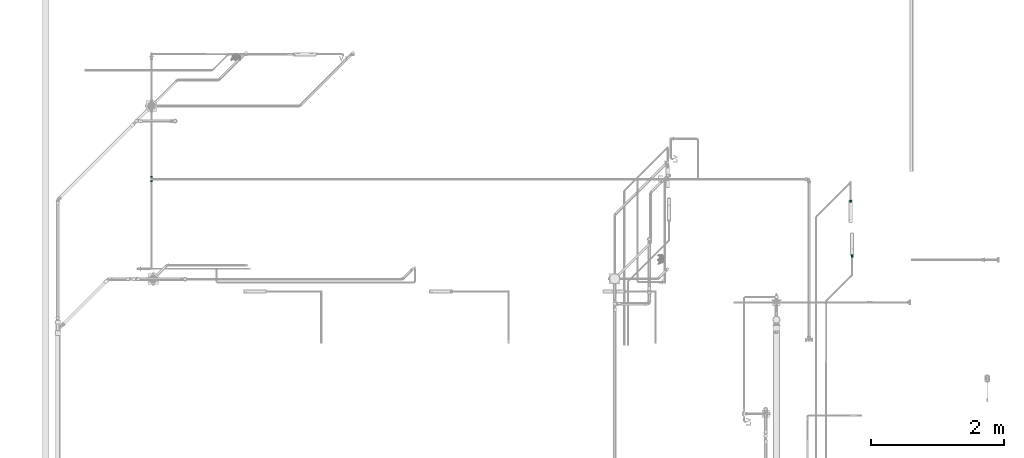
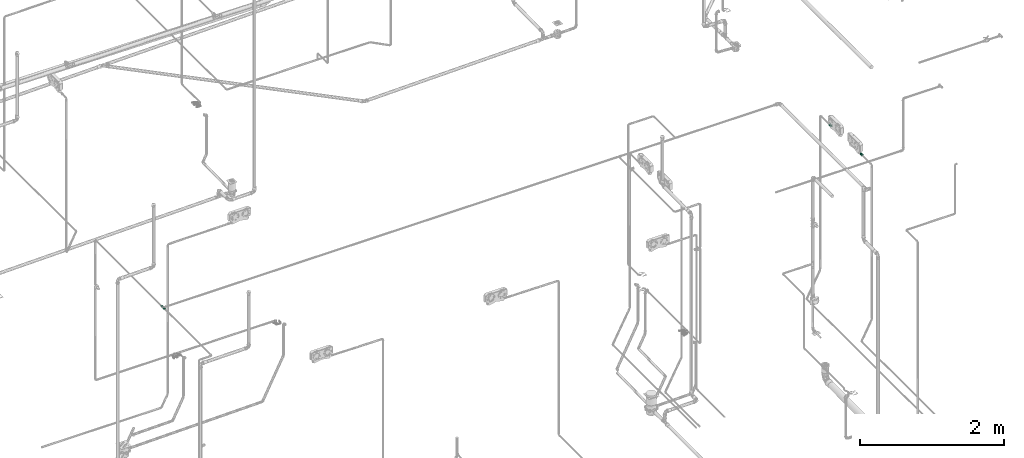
# One storey, part 342 of 589: 4 flow fittings.
"""IFC2X3 building model written with IfcOpenShell, lengths in millimetres."""

from ifc_helpers import new_model, entity, si_unit, converted_unit, derived_unit, direction, frame, frame_2d, origin, place, context, subcontext, project, spatial, hollow_circle, extrude, faceted_brep, source, transform, mapped, material, type_object, type_shapes, element, save


model = new_model("IFC2X3")

# Units and contexts
model_context = context("Model", 3, precision=0.01, world=origin(), true_north=direction((6.123031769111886e-17, 1.0)))
body_context = subcontext(model_context, "Body", "Model", "MODEL_VIEW")
ifc_project = project(units=[si_unit("LENGTHUNIT", "METRE", prefix="MILLI"), si_unit("AREAUNIT", "SQUARE_METRE"), si_unit("VOLUMEUNIT", "CUBIC_METRE"), converted_unit("PLANEANGLEUNIT", "DEGREE", entity("IfcRatioMeasure", 0.017453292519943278), si_unit("PLANEANGLEUNIT", "RADIAN"), dimensions=[0, 0, 0, 0, 0, 0, 0]), si_unit("MASSUNIT", "GRAM", prefix="KILO"), derived_unit("MASSDENSITYUNIT", [(si_unit("MASSUNIT", "GRAM", prefix="KILO"), 1), (si_unit("LENGTHUNIT", "METRE"), -3)]), derived_unit("IONCONCENTRATIONUNIT", [(si_unit("MASSUNIT", "GRAM", prefix="KILO"), 1), (si_unit("LENGTHUNIT", "METRE"), -3)]), derived_unit("MOMENTOFINERTIAUNIT", [(si_unit("LENGTHUNIT", "METRE"), 4)]), si_unit("TIMEUNIT", "SECOND"), si_unit("FREQUENCYUNIT", "HERTZ"), si_unit("THERMODYNAMICTEMPERATUREUNIT", "DEGREE_CELSIUS"), derived_unit("THERMALTRANSMITTANCEUNIT", [(si_unit("MASSUNIT", "GRAM", prefix="KILO"), 1), (si_unit("THERMODYNAMICTEMPERATUREUNIT", "KELVIN"), -1), (si_unit("TIMEUNIT", "SECOND"), -3)]), derived_unit("THERMALCONDUCTANCEUNIT", [(si_unit("MASSUNIT", "GRAM", prefix="KILO"), 1), (si_unit("THERMODYNAMICTEMPERATUREUNIT", "KELVIN"), -1), (si_unit("TIMEUNIT", "SECOND"), -3), (si_unit("LENGTHUNIT", "METRE"), 1)]), derived_unit("VOLUMETRICFLOWRATEUNIT", [(si_unit("LENGTHUNIT", "METRE"), 3), (si_unit("TIMEUNIT", "SECOND"), -1)]), derived_unit("MASSFLOWRATEUNIT", [(si_unit("MASSUNIT", "GRAM", prefix="KILO"), 1), (si_unit("TIMEUNIT", "SECOND"), -1)]), derived_unit("ROTATIONALFREQUENCYUNIT", [(si_unit("TIMEUNIT", "SECOND"), -1)]), si_unit("ELECTRICCURRENTUNIT", "AMPERE"), si_unit("ELECTRICVOLTAGEUNIT", "VOLT"), si_unit("POWERUNIT", "WATT"), si_unit("FORCEUNIT", "NEWTON", prefix="KILO"), si_unit("ILLUMINANCEUNIT", "LUX"), si_unit("LUMINOUSFLUXUNIT", "LUMEN"), si_unit("LUMINOUSINTENSITYUNIT", "CANDELA"), derived_unit("USERDEFINED", [(si_unit("MASSUNIT", "GRAM", prefix="KILO"), -1), (si_unit("LENGTHUNIT", "METRE"), -2), (si_unit("TIMEUNIT", "SECOND"), 3), (si_unit("LUMINOUSFLUXUNIT", "LUMEN"), 1)]), derived_unit("USERDEFINED", [(si_unit("MASSUNIT", "GRAM", prefix="KILO"), 1), (si_unit("TIMEUNIT", "SECOND"), -3), (si_unit("LENGTHUNIT", "METRE"), 3), (si_unit("ELECTRICCURRENTUNIT", "AMPERE"), -2)]), derived_unit("SOUNDPOWERUNIT", [(si_unit("MASSUNIT", "GRAM", prefix="KILO"), 1), (si_unit("TIMEUNIT", "SECOND"), -3), (si_unit("LENGTHUNIT", "METRE"), 2)]), derived_unit("SOUNDPRESSUREUNIT", [(si_unit("MASSUNIT", "GRAM", prefix="KILO"), 1), (si_unit("LENGTHUNIT", "METRE"), -1), (si_unit("TIMEUNIT", "SECOND"), -2)]), derived_unit("LINEARVELOCITYUNIT", [(si_unit("LENGTHUNIT", "METRE"), 1), (si_unit("TIMEUNIT", "SECOND"), -1)]), si_unit("PRESSUREUNIT", "PASCAL"), derived_unit("USERDEFINED", [(si_unit("MASSUNIT", "GRAM", prefix="KILO"), 1), (si_unit("LENGTHUNIT", "METRE"), -2), (si_unit("TIMEUNIT", "SECOND"), -2)]), derived_unit("LINEARFORCEUNIT", [(si_unit("MASSUNIT", "GRAM", prefix="KILO"), 1), (si_unit("TIMEUNIT", "SECOND"), -2)]), derived_unit("PLANARFORCEUNIT", [(si_unit("MASSUNIT", "GRAM", prefix="KILO"), 1), (si_unit("LENGTHUNIT", "METRE"), -1), (si_unit("TIMEUNIT", "SECOND"), -2)]), derived_unit("SPECIFICHEATCAPACITYUNIT", [(si_unit("THERMODYNAMICTEMPERATUREUNIT", "KELVIN"), -1), (si_unit("LENGTHUNIT", "METRE"), 2), (si_unit("TIMEUNIT", "SECOND"), -2)]), derived_unit("HEATINGVALUEUNIT", [(si_unit("LENGTHUNIT", "METRE"), 2), (si_unit("TIMEUNIT", "SECOND"), -2)]), derived_unit("VAPORPERMEABILITYUNIT", [(si_unit("LENGTHUNIT", "METRE"), -1), (si_unit("TIMEUNIT", "SECOND"), 1)]), derived_unit("DYNAMICVISCOSITYUNIT", [(si_unit("MASSUNIT", "GRAM", prefix="KILO"), 1), (si_unit("TIMEUNIT", "SECOND"), -1), (si_unit("LENGTHUNIT", "METRE"), -1)]), derived_unit("THERMALEXPANSIONCOEFFICIENTUNIT", [(si_unit("THERMODYNAMICTEMPERATUREUNIT", "KELVIN"), -1)]), derived_unit("MODULUSOFELASTICITYUNIT", [(si_unit("MASSUNIT", "GRAM", prefix="KILO"), 1), (si_unit("LENGTHUNIT", "METRE"), -1), (si_unit("TIMEUNIT", "SECOND"), -2)]), derived_unit("ISOTHERMALMOISTURECAPACITYUNIT", [(si_unit("LENGTHUNIT", "METRE"), 3), (si_unit("MASSUNIT", "GRAM", prefix="KILO"), -1)]), derived_unit("MOISTUREDIFFUSIVITYUNIT", [(si_unit("TIMEUNIT", "SECOND"), -1), (si_unit("LENGTHUNIT", "METRE"), 2)])], contexts=[model_context])

# Site, building, storey
site_placement = place(None, origin())
site = spatial("IfcSite", under=ifc_project, at=site_placement, Name="Default", CompositionType="ELEMENT")
building_placement = place(site_placement, origin())
building = spatial("IfcBuilding", under=site, at=building_placement, CompositionType="ELEMENT")
storey_placement = place(building_placement, frame((0.0, 0.0, 100.0)))
storey = spatial("IfcBuildingStorey", under=building, at=storey_placement, Name="TÉRREO", CompositionType="ELEMENT", Elevation=100.0)

# Flow fittings
ifc_material_1 = material(Name="PVC Azul")
pipe_fitting_type_1 = type_object("IfcPipeFittingType", Name="Luva Soldavel com Bucha de Latao - Fortlev - AleBim:Standard", PredefinedType="NOTDEFINED", material=ifc_material_1)
shared_shape_1 = source(origin(), body_context, "Body", "Brep", [
    faceted_brep([(0.0, -9.400000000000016, -16.28127759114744), (0.0, -13.2936074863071, -13.293607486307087), (0.0, -6.249999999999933, -10.825317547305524), (0.0, -3.235238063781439, -12.074072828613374), (0.0, -4.865798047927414, -18.15940553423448), (0.0, -8.838834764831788, -8.838834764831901), (0.0, -16.281277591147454, -9.399999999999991), (0.0, -10.82531754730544, -6.250000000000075), (0.0, -12.074072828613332, -3.2352380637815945), (0.0, -18.159405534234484, -4.865798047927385), (0.0, -12.5, 0.0), (0.0, -18.8, 0.0), (0.0, -12.074072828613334, 3.2352380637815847), (0.0, -18.159405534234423, 4.8657980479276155), (0.0, -10.825317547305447, 6.250000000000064), (0.0, -16.281277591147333, 9.400000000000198), (0.0, -8.838834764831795, 8.838834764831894), (0.0, -13.293607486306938, 13.29360748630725), (0.0, -6.249999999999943, 10.825317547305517), (0.0, -9.399999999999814, 16.281277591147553), (0.0, -3.23523806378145, 12.07407282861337), (0.0, -4.865798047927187, 18.159405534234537), (0.0, 0.0, 12.5), (0.0, 0.0, 18.8), (0.0, 3.2352380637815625, 12.074072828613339), (0.0, 4.865798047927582, 18.159405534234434), (0.0, 6.2500000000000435, 10.825317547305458), (0.0, 9.400000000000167, 16.28127759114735), (0.0, 8.838834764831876, 8.838834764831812), (0.0, 13.29360748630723, 13.293607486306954), (0.0, 10.825317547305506, 6.249999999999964), (0.0, 16.281277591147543, 9.399999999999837), (0.0, 18.159405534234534, 4.865798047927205), (0.0, 12.074072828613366, 3.2352380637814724), (0.0, 18.8, 0.0), (0.0, 12.5, 0.0), (0.0, 18.15940553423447, -4.865798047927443), (0.0, 12.074072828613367, -3.2352380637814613), (0.0, 16.281277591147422, -9.400000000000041), (0.0, 10.825317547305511, -6.249999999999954), (0.0, 13.293607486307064, -13.293607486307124), (0.0, 8.838834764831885, -8.838834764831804), (0.0, 9.399999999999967, -16.281277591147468), (0.0, 6.250000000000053, -10.825317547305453), (0.0, 4.86579804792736, -18.159405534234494), (0.0, 3.2352380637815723, -12.074072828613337), (0.0, 0.0, -18.8), (0.0, 0.0, -12.5), (20.0, 17.66604204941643, 6.4304710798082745), (20.0, 18.233021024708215, 3.2152355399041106), (20.0, 11.899800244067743, 14.183636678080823), (20.0, 14.400961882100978, 12.08520983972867), (20.0, 16.033501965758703, 9.257840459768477), (20.0, 6.330580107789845, 17.39840655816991), (20.0, 3.2625216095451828, 18.514749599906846), (20.0, 18.8, 0.0), (20.0, 9.398638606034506, 16.282063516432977), (20.0, -17.667654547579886, 6.4260394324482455), (20.0, -9.402722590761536, 16.279705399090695), (20.0, -6.334944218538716, 17.39681801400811), (20.0, -3.267165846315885, 18.513930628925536), (20.0, -14.403992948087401, 12.081597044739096), (20.0, -11.903357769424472, 14.180651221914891), (20.0, -18.8, 0.0), (20.0, -16.03582374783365, 9.253818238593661), (20.0, -0.0023221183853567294, 18.514340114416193), (20.0, -17.66765454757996, -6.426039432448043), (20.0, -11.903357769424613, -14.180651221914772), (20.0, -14.403992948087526, -12.081597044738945), (20.0, -16.035823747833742, -9.253818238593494), (20.0, -6.334944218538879, -17.39681801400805), (20.0, -3.2671658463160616, -18.513930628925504), (20.0, 18.233021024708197, -3.2152355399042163), (20.0, -9.402722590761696, -16.2797053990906), (20.0, 6.330580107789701, -17.398406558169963), (20.0, 3.2625216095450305, -18.514749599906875), (20.0, 9.398638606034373, -16.282063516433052), (20.0, 11.899800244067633, -14.183636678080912), (20.0, 17.66604204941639, -6.43047107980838), (20.0, 16.033501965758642, -9.257840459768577), (20.0, 14.400961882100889, -12.085209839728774), (20.0, -0.0023221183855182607, -18.51434011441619), (23.69999999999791, 14.19050976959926, 5.16134018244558), (23.699999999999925, 15.09999999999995, 0.0), (23.699999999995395, 5.088173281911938, 13.97297617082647), (23.699999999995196, 2.6241598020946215, 14.870231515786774), (23.699999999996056, 9.560675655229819, 11.38977837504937), (23.699999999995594, 7.552186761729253, 13.075720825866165), (23.699999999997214, 12.879837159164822, 7.432588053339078), (23.699999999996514, 11.569164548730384, 9.703835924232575), (23.699999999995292, 0.0018651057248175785, 14.870560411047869), (23.69999999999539, -2.620429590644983, 14.870889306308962), (23.699999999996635, -9.557818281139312, 11.392176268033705), (23.699999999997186, -11.566730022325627, 9.706737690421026), (23.699999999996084, -7.548906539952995, 13.077614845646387), (23.699999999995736, -5.084668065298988, 13.974252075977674), (23.699999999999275, -14.644607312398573, 2.582449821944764), (23.699999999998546, -14.189214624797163, 5.164899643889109), (23.700000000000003, -15.099999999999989, 0.0), (23.699999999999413, -14.732236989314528, 2.085517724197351), (23.699999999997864, -12.877972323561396, 7.4358186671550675), (23.699999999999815, -14.644607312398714, -2.582449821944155), (23.699999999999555, -14.18921462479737, -5.164899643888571), (23.699999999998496, -5.084668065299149, -13.97425207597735), (23.699999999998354, -2.620429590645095, -14.87088930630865), (23.69999999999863, -7.548906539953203, -13.077614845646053), (23.69999999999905, -11.566730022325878, -9.706737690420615), (23.69999999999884, -9.557818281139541, -11.392176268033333), (23.6999999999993, 14.190509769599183, -5.1613401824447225), (23.699999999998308, 0.0018651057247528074, -14.870560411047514), (23.699999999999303, -12.877972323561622, -7.435818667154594), (23.699999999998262, 2.6241598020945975, -14.870231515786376), (23.699999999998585, 9.56067565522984, -11.389778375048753), (23.699999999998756, 11.569164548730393, -9.703835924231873), (23.699999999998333, 5.088173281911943, -13.972976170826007), (23.69999999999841, 7.552186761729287, -13.075720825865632), (23.69999999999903, 12.879837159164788, -7.432588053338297), (34.20000000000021, -14.189214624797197, -5.164899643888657), (34.20000000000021, -14.73223698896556, -2.085517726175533), (34.20000000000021, -15.099999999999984, 0.0), (34.20000000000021, -9.55781828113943, -11.392176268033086), (34.20000000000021, -11.566730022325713, -9.706737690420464), (34.20000000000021, -7.548906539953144, -13.077614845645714), (34.20000000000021, -12.877972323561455, -7.43581866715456), (34.20000000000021, -2.620429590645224, -14.870889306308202), (34.20000000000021, -5.084668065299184, -13.974252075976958), (34.20000000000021, 2.6241598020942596, -14.870231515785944), (34.20000000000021, 0.0018651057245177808, -14.870560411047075), (34.20000000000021, 5.0881732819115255, -13.97297617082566), (34.20000000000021, 7.552186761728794, -13.075720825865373), (34.20000000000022, 11.56916454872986, -9.70383592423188), (34.200000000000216, 9.560675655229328, -11.389778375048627), (34.20000000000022, 12.879837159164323, -7.432588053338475), (34.20000000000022, 14.19050976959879, -5.161340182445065), (34.20000000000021, 15.100000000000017, 0.0), (34.199999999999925, 14.190509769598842, 5.161340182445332), (34.19999999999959, 7.552186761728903, 13.0757208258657), (34.199999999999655, 9.56067565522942, 11.389778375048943), (34.19999999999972, 11.569164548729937, 9.703835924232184), (34.199999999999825, 12.879837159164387, 7.432588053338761), (34.19999999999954, 2.624159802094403, 14.87023151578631), (34.19999999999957, 5.08817328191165, 13.972976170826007), (34.19999999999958, -2.6204295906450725, 14.870889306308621), (34.19999999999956, 0.0018651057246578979, 14.870560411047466), (34.199999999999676, -7.548906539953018, 13.077614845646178), (34.199999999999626, -5.084668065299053, 13.974252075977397), (34.20000000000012, -14.644607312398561, 2.582449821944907), (34.20000000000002, -14.18921462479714, 5.164899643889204), (34.199999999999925, -12.877972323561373, 7.435818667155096), (34.19999999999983, -11.566730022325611, 9.706737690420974), (34.199999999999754, -9.557818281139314, 11.392176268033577), (36.20000000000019, -17.099999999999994, 0.0), (36.20000000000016, -16.698266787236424, 2.2781566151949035), (36.199999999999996, -16.584290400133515, 2.9244961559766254), (36.200000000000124, -16.068580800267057, 5.848992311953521), (36.20000000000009, -14.583664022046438, 8.420695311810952), (36.20000000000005, -13.098747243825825, 10.992398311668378), (36.200000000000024, -10.823754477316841, 12.90107378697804), (36.2, -8.548761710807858, 14.809749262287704), (36.19999999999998, -5.758134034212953, 15.825146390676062), (36.19999999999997, -2.9675063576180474, 16.840543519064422), (36.19999999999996, 0.0021121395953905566, 16.84017106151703), (36.19999999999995, 2.9717306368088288, 16.839798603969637), (36.199999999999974, 8.55247639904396, 14.807604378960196), (36.19999999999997, 5.762103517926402, 15.823701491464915), (36.20000000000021, 17.100000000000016, 0.0), (36.2000000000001, 16.070047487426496, 5.844961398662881), (36.200000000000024, 13.101504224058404, 10.989112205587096), (36.20000000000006, 14.585775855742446, 8.417036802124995), (36.2, 10.826990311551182, 12.898358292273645), (36.20000000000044, 16.07004748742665, -5.844961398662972), (36.200000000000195, 0.0021121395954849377, -16.84017106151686), (36.20000000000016, -2.9675063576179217, -16.84054351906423), (36.20000000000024, 2.9717306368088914, -16.839798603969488), (36.200000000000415, 14.58577585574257, -8.417036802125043), (36.20000000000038, 13.10150422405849, -10.989112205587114), (36.20000000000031, 8.552476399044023, -14.807604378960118), (36.20000000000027, 5.7621035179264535, -15.823701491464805), (36.20000000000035, 10.826990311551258, -12.898358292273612), (36.20000000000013, -5.758134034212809, -15.825146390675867), (36.2000000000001, -8.548761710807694, -14.809749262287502), (36.200000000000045, -16.068580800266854, -5.848992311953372), (36.200000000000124, -16.58429040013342, -2.924496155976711), (36.20000000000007, -13.098747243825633, -10.992398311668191), (36.20000000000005, -14.583664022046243, -8.420695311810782), (36.20000000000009, -10.823754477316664, -12.901073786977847), (40.200000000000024, 8.550000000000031, -14.809034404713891), (40.200000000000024, 12.091525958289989, -12.091525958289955), (40.200000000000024, 6.2500000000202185, -10.825317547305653), (40.200000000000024, 3.2352380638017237, -12.074072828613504), (40.200000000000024, 4.425805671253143, -16.51733162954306), (40.200000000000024, 8.838834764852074, -8.838834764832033), (40.200000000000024, 14.809034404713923, -8.549999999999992), (40.200000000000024, 10.825317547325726, -6.250000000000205), (40.200000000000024, 12.074072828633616, -3.235238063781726), (40.200000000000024, 16.517331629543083, -4.4258056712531), (40.200000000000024, 12.500000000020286, 0.0), (40.200000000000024, 17.100000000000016, 0.0), (40.200000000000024, 12.074072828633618, 3.2352380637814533), (40.200000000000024, 16.51733162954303, 4.42580567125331), (40.200000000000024, 10.825317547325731, 6.2499999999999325), (40.200000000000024, 14.809034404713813, 8.550000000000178), (40.200000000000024, 8.83883476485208, 8.838834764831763), (40.200000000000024, 12.091525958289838, 12.091525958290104), (40.200000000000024, 6.250000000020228, 10.825317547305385), (40.200000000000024, 8.549999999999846, 14.809034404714), (40.200000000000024, 3.235238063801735, 12.074072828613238), (40.200000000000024, 4.425805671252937, 16.51733162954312), (40.200000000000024, 0.0, 12.49999999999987), (40.200000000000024, 0.0, 17.1), (40.200000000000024, -3.235238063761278, 12.07407282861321), (40.200000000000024, -4.425805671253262, 16.51733162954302), (40.200000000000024, -6.249999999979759, 10.825317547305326), (40.200000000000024, -8.550000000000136, 14.809034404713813), (40.200000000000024, -8.838834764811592, 8.838834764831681), (40.200000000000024, -12.091525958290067, 12.091525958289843), (40.200000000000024, -10.825317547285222, 6.249999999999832), (40.200000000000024, -14.809034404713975, 8.549999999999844), (40.200000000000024, -16.517331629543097, 4.425805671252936), (40.200000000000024, -12.07407282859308, 3.2352380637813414), (40.200000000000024, -17.099999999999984, 0.0), (40.200000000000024, -12.499999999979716, 0.0), (40.200000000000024, -16.517331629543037, -4.425805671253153), (40.200000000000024, -12.074072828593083, -3.2352380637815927), (40.200000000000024, -14.809034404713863, -8.550000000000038), (40.200000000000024, -10.825317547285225, -6.250000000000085), (40.200000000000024, -12.09152595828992, -12.09152595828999), (40.200000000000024, -8.838834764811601, -8.838834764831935), (40.200000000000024, -8.549999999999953, -14.80903440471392), (40.200000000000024, -6.249999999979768, -10.825317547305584), (40.200000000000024, -4.425805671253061, -16.517331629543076), (40.200000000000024, -3.2352380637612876, -12.074072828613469), (40.200000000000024, 0.0, -17.1), (40.200000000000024, 0.0, -12.500000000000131), (24.0, 3.23523806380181, -12.074072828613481), (24.0, 6.250000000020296, -10.825317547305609), (24.0, 8.838834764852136, -8.83883476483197), (24.0, 10.825317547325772, -6.250000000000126), (24.0, 12.07407282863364, -3.2352380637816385), (24.0, 12.500000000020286, 0.0), (24.0, 12.074072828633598, 3.235238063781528), (24.0, 10.825317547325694, 6.249999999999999), (24.0, 8.838834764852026, 8.838834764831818), (24.0, 6.250000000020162, 10.825317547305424), (24.0, 3.2352380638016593, 12.074072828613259), (24.0, 0.0, 12.49999999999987), (24.0, -3.235238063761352, 12.07407282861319), (24.0, -6.249999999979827, 10.82531754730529), (24.0, -8.83883476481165, 8.83883476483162), (24.0, -10.82531754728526, 6.24999999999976), (24.0, -12.074072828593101, 3.235238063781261), (24.0, -12.499999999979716, 0.0), (24.0, -12.07407282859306, -3.235238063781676), (24.0, -10.825317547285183, -6.250000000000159), (24.0, -8.838834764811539, -8.838834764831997), (24.0, -6.2499999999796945, -10.825317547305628), (24.0, -3.2352380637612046, -12.074072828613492), (24.0, 0.0, -12.500000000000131), (16.200000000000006, -12.074072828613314, 3.2352380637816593), (16.200000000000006, -12.5, 0.0), (16.200000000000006, -10.825317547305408, 6.250000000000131), (16.200000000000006, -8.838834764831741, 8.83883476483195), (16.200000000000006, -6.2499999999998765, 10.825317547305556), (16.200000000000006, -3.2352380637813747, 12.07407282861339), (16.200000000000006, 0.0, 12.5), (16.200000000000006, 6.250000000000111, 10.825317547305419), (16.200000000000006, 3.235238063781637, 12.074072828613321), (16.200000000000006, 8.838834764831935, 8.838834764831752), (16.200000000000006, 10.825317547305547, 6.249999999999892), (16.200000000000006, 12.074072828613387, 3.235238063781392), (16.200000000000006, 12.5, 0.0), (16.200000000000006, 12.074072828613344, -3.2352380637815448), (16.200000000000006, 10.825317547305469, -6.2500000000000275), (16.200000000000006, 8.838834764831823, -8.838834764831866), (16.200000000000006, 6.24999999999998, -10.825317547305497), (16.200000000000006, 3.2352380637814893, -12.07407282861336), (16.200000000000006, 0.0, -12.5), (16.200000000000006, -6.250000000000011, -10.82531754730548), (16.200000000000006, -3.2352380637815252, -12.07407282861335), (16.200000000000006, -8.83883476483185, -8.838834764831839), (16.200000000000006, -10.825317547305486, -6.249999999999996), (16.200000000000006, -12.074072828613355, -3.2352380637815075)], [[[0, 1, 2]], [[0, 2, 3]], [[3, 4, 0]], [[2, 1, 5]], [[6, 5, 1]], [[7, 5, 6]], [[8, 7, 6]], [[8, 6, 9]], [[8, 9, 10]], [[10, 9, 11]], [[12, 10, 11]], [[12, 11, 13]], [[14, 12, 13]], [[14, 13, 15]], [[16, 14, 15]], [[15, 17, 16]], [[17, 18, 16]], [[18, 17, 19]], [[18, 19, 20]], [[21, 20, 19]], [[20, 21, 22]], [[22, 21, 23]], [[23, 24, 22]], [[24, 23, 25]], [[24, 25, 26]], [[27, 26, 25]], [[27, 28, 26]], [[27, 29, 28]], [[30, 28, 29]], [[31, 30, 29]], [[32, 30, 31]], [[33, 30, 32]], [[33, 32, 34]], [[34, 35, 33]], [[36, 35, 34]], [[36, 37, 35]], [[37, 36, 38]], [[39, 37, 38]], [[39, 38, 40]], [[39, 40, 41]], [[40, 42, 41]], [[41, 42, 43]], [[43, 42, 44]], [[44, 45, 43]], [[46, 45, 44]], [[4, 47, 46]], [[45, 46, 47]], [[4, 3, 47]], [[32, 48, 49]], [[50, 51, 29]], [[52, 48, 31, 51]], [[53, 25, 54]], [[48, 32, 31]], [[34, 49, 55]], [[25, 53, 27]], [[27, 56, 50]], [[29, 51, 31]], [[13, 57, 15]], [[19, 58, 59]], [[53, 56, 27]], [[21, 19, 59]], [[54, 25, 23]], [[29, 27, 50]], [[59, 60, 21]], [[61, 62, 17]], [[63, 57, 13]], [[32, 49, 34]], [[64, 61, 15, 57]], [[11, 63, 13]], [[17, 62, 19]], [[65, 54, 23, 60]], [[61, 17, 15]], [[19, 62, 58]], [[21, 60, 23]], [[66, 63, 9]], [[67, 68, 1]], [[69, 66, 6, 68]], [[70, 4, 71]], [[66, 9, 6]], [[63, 11, 9]], [[1, 68, 6]], [[34, 55, 72]], [[70, 73, 0]], [[71, 4, 46]], [[74, 75, 44]], [[42, 76, 74]], [[42, 77, 76]], [[36, 78, 38]], [[38, 78, 79, 80]], [[36, 34, 72]], [[77, 40, 80]], [[72, 78, 36]], [[0, 73, 67]], [[81, 71, 46, 75]], [[1, 0, 67]], [[4, 70, 0]], [[80, 40, 38]], [[40, 77, 42]], [[44, 75, 46]], [[44, 42, 74]], [[82, 83, 49]], [[84, 53, 85]], [[86, 50, 87]], [[88, 52, 89]], [[53, 54, 85]], [[50, 56, 87]], [[49, 48, 82]], [[52, 51, 89]], [[87, 56, 84]], [[83, 55, 49]], [[88, 48, 52]], [[51, 50, 86]], [[85, 54, 90]], [[82, 48, 88]], [[56, 53, 84]], [[89, 51, 86]], [[65, 60, 91]], [[92, 62, 93]], [[59, 58, 94]], [[90, 65, 91]], [[95, 59, 94]], [[96, 97, 57]], [[63, 98, 99, 96]], [[64, 57, 97]], [[100, 64, 97]], [[62, 61, 93]], [[93, 61, 100]], [[59, 95, 60]], [[92, 58, 62]], [[61, 64, 100]], [[63, 96, 57]], [[94, 58, 92]], [[54, 65, 90]], [[91, 60, 95]], [[66, 101, 63]], [[98, 63, 101]], [[66, 102, 101]], [[103, 71, 104]], [[105, 73, 70]], [[106, 68, 67]], [[107, 73, 105]], [[102, 66, 69]], [[108, 78, 72]], [[70, 71, 103]], [[109, 104, 81]], [[69, 68, 110]], [[81, 75, 109]], [[110, 102, 69]], [[67, 73, 107]], [[107, 106, 67]], [[75, 111, 109]], [[112, 80, 113]], [[111, 75, 74]], [[110, 68, 106]], [[81, 104, 71]], [[114, 76, 115]], [[103, 105, 70]], [[113, 80, 79]], [[116, 78, 108]], [[115, 76, 77]], [[116, 113, 79]], [[79, 78, 116]], [[55, 83, 72]], [[77, 80, 112]], [[108, 72, 83]], [[112, 115, 77]], [[74, 76, 114]], [[114, 111, 74]], [[117, 118, 119, 98, 101, 102]], [[120, 121, 106, 107, 105, 122]], [[121, 123, 117, 102, 110, 106]], [[124, 125, 122, 105, 103, 104]], [[126, 127, 124, 104, 109, 111]], [[128, 126, 111, 114, 115, 129]], [[112, 113, 130, 131, 129, 115]], [[132, 130, 113, 116, 108, 133]], [[108, 83, 134, 133]], [[135, 134, 83, 82]], [[136, 137, 138, 89, 86, 87]], [[138, 139, 135, 82, 88, 89]], [[140, 141, 136, 87, 84, 85]], [[90, 91, 142, 143, 140, 85]], [[95, 94, 144, 145, 142, 91]], [[99, 98, 119, 146, 147, 97, 96]], [[148, 149, 93, 100, 97, 147]], [[92, 93, 149, 150, 144, 94]], [[147, 146, 119, 151, 152, 153, 154]], [[148, 147, 154, 155, 156, 149]], [[150, 149, 156, 157, 158, 144]], [[158, 159, 160, 142, 145, 144]], [[161, 162, 140, 143, 142, 160]], [[163, 136, 141, 140, 162, 164]], [[165, 134, 135, 166]], [[167, 168, 166, 135, 139, 138]], [[163, 169, 167, 138, 137, 136]], [[170, 133, 134, 165]], [[171, 172, 124, 127, 126, 173]], [[132, 133, 170, 174, 175, 130]], [[126, 128, 129, 176, 177, 173]], [[175, 178, 176, 129, 131, 130]], [[125, 124, 172, 179, 180, 122]], [[151, 119, 118, 117, 181, 182]], [[183, 184, 181, 117, 123, 121]], [[180, 185, 183, 121, 120, 122]], [[186, 187, 188]], [[186, 188, 189]], [[189, 190, 186]], [[188, 187, 191]], [[192, 191, 187]], [[193, 191, 192]], [[194, 193, 192]], [[194, 192, 195]], [[194, 195, 196]], [[196, 195, 197]], [[198, 196, 197]], [[198, 197, 199]], [[200, 198, 199]], [[200, 199, 201]], [[202, 200, 201]], [[201, 203, 202]], [[203, 204, 202]], [[204, 203, 205]], [[204, 205, 206]], [[207, 206, 205]], [[206, 207, 208]], [[208, 207, 209]], [[209, 210, 208]], [[210, 209, 211]], [[210, 211, 212]], [[213, 212, 211]], [[213, 214, 212]], [[213, 215, 214]], [[216, 214, 215]], [[217, 216, 215]], [[218, 216, 217]], [[219, 216, 218]], [[219, 218, 220]], [[220, 221, 219]], [[222, 221, 220]], [[222, 223, 221]], [[223, 222, 224]], [[225, 223, 224]], [[225, 224, 226]], [[225, 226, 227]], [[226, 228, 227]], [[227, 228, 229]], [[229, 228, 230]], [[230, 231, 229]], [[232, 231, 230]], [[190, 233, 232]], [[231, 232, 233]], [[190, 189, 233]], [[218, 154, 153]], [[157, 156, 215]], [[155, 154, 217, 156]], [[159, 211, 160]], [[154, 218, 217]], [[220, 153, 152, 151]], [[213, 158, 157]], [[215, 213, 157]], [[215, 156, 217]], [[205, 163, 164]], [[207, 205, 164]], [[159, 158, 213]], [[211, 159, 213]], [[160, 211, 209]], [[218, 153, 220]], [[164, 162, 207]], [[167, 169, 203]], [[165, 166, 199]], [[168, 167, 201, 166]], [[197, 165, 199]], [[203, 169, 205]], [[161, 160, 209, 162]], [[207, 162, 209]], [[167, 203, 201]], [[205, 169, 163]], [[199, 166, 201]], [[170, 165, 195]], [[178, 175, 187]], [[174, 170, 192, 175]], [[177, 190, 173]], [[170, 195, 192]], [[165, 197, 195]], [[190, 177, 186]], [[186, 176, 178]], [[187, 175, 192]], [[222, 220, 182]], [[228, 180, 179]], [[177, 176, 186]], [[230, 228, 179]], [[173, 190, 232]], [[187, 186, 178]], [[179, 172, 230]], [[183, 185, 226]], [[182, 181, 222]], [[184, 183, 224, 181]], [[222, 181, 224]], [[226, 185, 228]], [[171, 173, 232, 172]], [[230, 172, 232]], [[183, 226, 224]], [[228, 185, 180]], [[220, 151, 182]], [[234, 235, 236, 237, 238, 239, 240, 241, 242, 243, 244, 245, 246, 247, 248, 249, 250, 251, 252, 253, 254, 255, 256, 257]], [[250, 219, 221, 251]], [[12, 258, 259, 10]], [[249, 216, 219, 250]], [[14, 260, 258, 12]], [[214, 248, 247, 212]], [[261, 16, 18, 262]], [[249, 248, 214, 216]], [[261, 260, 14, 16]], [[212, 247, 246, 210]], [[262, 18, 20, 263]], [[210, 246, 245, 208]], [[20, 22, 264, 263]], [[243, 204, 206, 244]], [[26, 265, 266, 24]], [[242, 202, 204, 243]], [[28, 267, 265, 26]], [[200, 241, 240, 198]], [[268, 30, 33, 269]], [[242, 241, 200, 202]], [[268, 267, 28, 30]], [[198, 240, 239, 196]], [[269, 33, 35, 270]], [[206, 208, 245, 244]], [[24, 266, 264, 22]], [[238, 194, 196, 239]], [[37, 271, 270, 35]], [[237, 193, 194, 238]], [[39, 272, 271, 37]], [[191, 236, 235, 188]], [[273, 41, 43, 274]], [[237, 236, 191, 193]], [[273, 272, 39, 41]], [[188, 235, 234, 189]], [[274, 43, 45, 275]], [[189, 234, 257, 233]], [[45, 47, 276, 275]], [[255, 229, 231, 256]], [[2, 277, 278, 3]], [[254, 227, 229, 255]], [[5, 279, 277, 2]], [[225, 253, 252, 223]], [[280, 7, 8, 281]], [[254, 253, 225, 227]], [[280, 279, 5, 7]], [[223, 252, 251, 221]], [[281, 8, 10, 259]], [[231, 233, 257, 256]], [[3, 278, 276, 47]], [[278, 277, 279, 280, 281, 259, 258, 260, 261, 262, 263, 264, 266, 265, 267, 268, 269, 270, 271, 272, 273, 274, 275, 276]]]),
])
type_shapes(pipe_fitting_type_1, [shared_shape_1])
for number, where, z_axis, x_axis, name in (
    (1, (3151.9537703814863, -7375.890482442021, 2579.037588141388), (0.0, -0.009999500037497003, 0.9999500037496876), (0.0, 0.9999500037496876, 0.009999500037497), "Luva Soldavel com Bucha de Latao - Fortlev - AleBim:Standard"),
    (2, (3131.1245078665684, -6514.166303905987, 2579.037588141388), (0.0, 0.009999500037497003, 0.9999500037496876), (0.0, -0.9999500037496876, 0.009999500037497), "Luva Soldavel com Bucha de Latao - Fortlev - AleBim:Standard"),
):
    element("IfcFlowFitting", number, at=place(storey_placement, frame(where, z_axis=z_axis, x_axis=x_axis)), inside=storey, type_object=pipe_fitting_type_1, material=ifc_material_1, Name=name, ObjectType="Luva Soldavel com Bucha de Latao - Fortlev - AleBim:Standard", context=body_context, shape_type="MappedRepresentation", body=[
        mapped(shared_shape_1, transform((0.0, 0.0, 0.0), scale=1.0)),
    ])
ifc_material_2 = material(Name="PVC Marrom")
pipe_fitting_type_2 = type_object("IfcPipeFittingType", Name="PVC Marrom Soldável_Bucha de Reducão Curta_Rodrigo MEP:Bucha de Redução Curta", PredefinedType="NOTDEFINED", material=ifc_material_2)
shared_shape_2 = source(origin(), body_context, "Body", "SweptSolid", [
    extrude(hollow_circle(Radius=16.0, WallThickness=3.5, at=frame_2d((0.0, -7.20339910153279e-14), x_axis=(1.0, 0.0))), frame((0.0, 0.0, 0.0), z_axis=(1.0, 0.0, 0.0), x_axis=(0.0, 1.0, 0.0)), (0.0, 0.0, 1.0), 22.00000000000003),
])
type_shapes(pipe_fitting_type_2, [shared_shape_2])
for number, where, z_axis, x_axis, name in (
    (3, (-7362.272959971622, -6179.72578222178, 2970.0), (0.0, 0.0, 1.0), (0.0, 1.0, 0.0), "PVC Marrom Soldável_Bucha de Reducão Curta_Rodrigo MEP:Bucha de Redução Curta"),
    (4, (-7362.272959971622, -6225.525782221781, 2970.0), (0.0, 0.0, 1.0), (0.0, -1.0, 0.0), "PVC Marrom Soldável_Bucha de Reducão Curta_Rodrigo MEP:Bucha de Redução Curta"),
):
    element("IfcFlowFitting", number, at=place(storey_placement, frame(where, z_axis=z_axis, x_axis=x_axis)), inside=storey, type_object=pipe_fitting_type_2, material=ifc_material_2, Name=name, ObjectType="PVC Marrom Soldável_Bucha de Reducão Curta_Rodrigo MEP:Bucha de Redução Curta", context=body_context, shape_type="MappedRepresentation", body=[
        mapped(shared_shape_2, transform((0.0, 0.0, 0.0), scale=1.0)),
    ])

save(model, "model.ifc")
